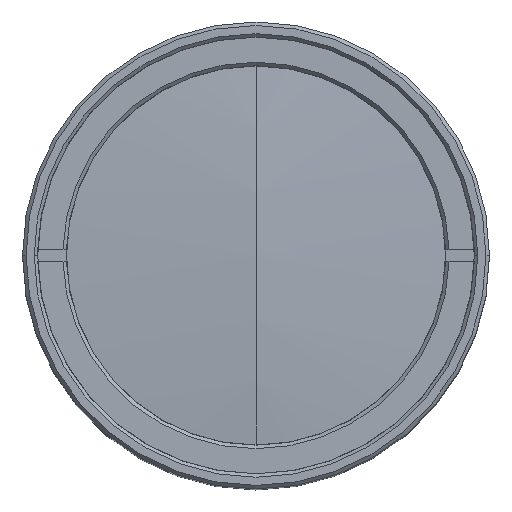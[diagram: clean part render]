
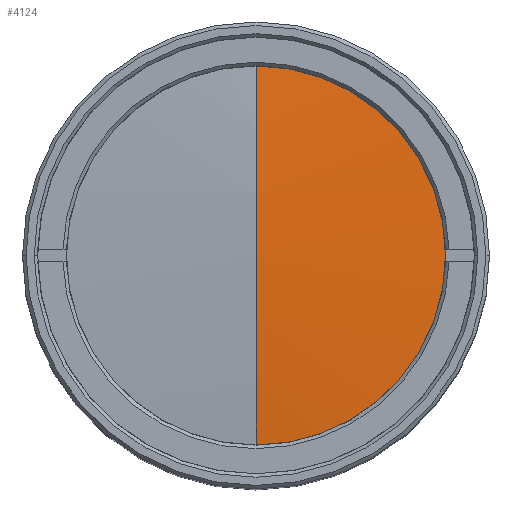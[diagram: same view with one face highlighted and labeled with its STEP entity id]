
A CAD part, top view. The second image highlights one B-rep face of the part: STEP entity #4124.
In plain terms, the highlighted spherical face has radius 167 mm.
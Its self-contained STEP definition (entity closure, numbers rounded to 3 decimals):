
#108 = ORIENTED_EDGE ( 'NONE', *, *, #5125, .F. ) ;
#123 = EDGE_CURVE ( 'NONE', #2192, #438, #890, .T. ) ;
#347 = CARTESIAN_POINT ( 'NONE',  ( 0., 0., -92.2 ) ) ;
#438 = VERTEX_POINT ( 'NONE', #1705 ) ;
#479 = DIRECTION ( 'NONE',  ( -1., 0., 0. ) ) ;
#753 = DIRECTION ( 'NONE',  ( 1., 0., 0. ) ) ;
#784 = AXIS2_PLACEMENT_3D ( 'NONE', #3985, #1455, #4818 ) ;
#890 = CIRCLE ( 'NONE', #1844, 167. ) ;
#917 = EDGE_CURVE ( 'NONE', #438, #5133, #3589, .T. ) ;
#989 = CARTESIAN_POINT ( 'NONE',  ( 0., 0., 74.009 ) ) ;
#1121 = SPHERICAL_SURFACE ( 'NONE', #784, 167. ) ;
#1315 = DIRECTION ( 'NONE',  ( 0., 0., -1. ) ) ;
#1424 = ORIENTED_EDGE ( 'NONE', *, *, #3905, .T. ) ;
#1455 = DIRECTION ( 'NONE',  ( 1., 0., 0. ) ) ;
#1705 = CARTESIAN_POINT ( 'NONE',  ( 0., 16.234, 74.009 ) ) ;
#1736 = AXIS2_PLACEMENT_3D ( 'NONE', #347, #753, #2421 ) ;
#1844 = AXIS2_PLACEMENT_3D ( 'NONE', #2723, #4349, #5256 ) ;
#2192 = VERTEX_POINT ( 'NONE', #4403 ) ;
#2208 = CIRCLE ( 'NONE', #4550, 16.234 ) ;
#2223 = CARTESIAN_POINT ( 'NONE',  ( 16.234, 0., 74.009 ) ) ;
#2330 = FACE_OUTER_BOUND ( 'NONE', #5300, .T. ) ;
#2421 = DIRECTION ( 'NONE',  ( 0., 1., 0. ) ) ;
#2664 = VERTEX_POINT ( 'NONE', #3519 ) ;
#2723 = CARTESIAN_POINT ( 'NONE',  ( 0., 0., -92.2 ) ) ;
#2991 = AXIS2_PLACEMENT_3D ( 'NONE', #4886, #3640, #3211 ) ;
#3211 = DIRECTION ( 'NONE',  ( -1., 0., 0. ) ) ;
#3519 = CARTESIAN_POINT ( 'NONE',  ( 0., -16.234, 74.009 ) ) ;
#3589 = CIRCLE ( 'NONE', #2991, 16.234 ) ;
#3640 = DIRECTION ( 'NONE',  ( 0., 0., -1. ) ) ;
#3905 = EDGE_CURVE ( 'NONE', #2192, #2664, #5109, .T. ) ;
#3985 = CARTESIAN_POINT ( 'NONE',  ( 0., 0., -92.2 ) ) ;
#4124 = ADVANCED_FACE ( 'NONE', ( #2330 ), #1121, .T. ) ;
#4147 = ORIENTED_EDGE ( 'NONE', *, *, #123, .F. ) ;
#4349 = DIRECTION ( 'NONE',  ( -1., 0., 0. ) ) ;
#4403 = CARTESIAN_POINT ( 'NONE',  ( 0., 0., 74.8 ) ) ;
#4550 = AXIS2_PLACEMENT_3D ( 'NONE', #989, #1315, #479 ) ;
#4818 = DIRECTION ( 'NONE',  ( 0., 1., 0. ) ) ;
#4886 = CARTESIAN_POINT ( 'NONE',  ( 0., 0., 74.009 ) ) ;
#4928 = ORIENTED_EDGE ( 'NONE', *, *, #917, .F. ) ;
#5109 = CIRCLE ( 'NONE', #1736, 167. ) ;
#5125 = EDGE_CURVE ( 'NONE', #5133, #2664, #2208, .T. ) ;
#5133 = VERTEX_POINT ( 'NONE', #2223 ) ;
#5256 = DIRECTION ( 'NONE',  ( 0., 0., 1. ) ) ;
#5300 = EDGE_LOOP ( 'NONE', ( #4147, #1424, #108, #4928 ) ) ;
